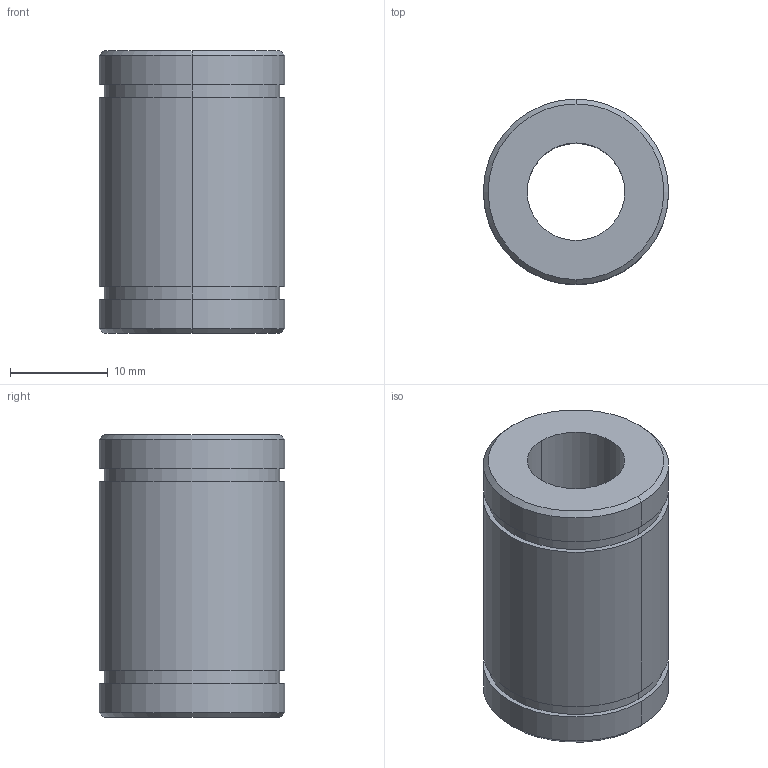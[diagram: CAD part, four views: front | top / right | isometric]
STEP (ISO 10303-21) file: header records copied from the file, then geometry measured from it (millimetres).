
FILE_DESCRIPTION (( 'STEP AP214' ), '1' );
FILE_NAME ('2.7006 Lineaarilaakeri LM10UU.STEP', '2024-06-17T07:30:20', ( '' ), ( '' ), 'SwSTEP 2.0', 'SolidWorks 2024', '' );
FILE_SCHEMA (( 'AUTOMOTIVE_DESIGN' ));
Length unit declared in the file: millimetre
Products named in the file (1): 2.7006 Lineaarilaakeri LM10UU
Bounding box: 19 x 19 x 29 mm (x, y, z)
Volume: 5854.5 mm3; surface area: 3124.5 mm2
Topology: 1 solids, 1 shells, 22 faces, 44 edges, 28 vertices
Faces by surface type: cylinder 12, plane 6, cone 4
Entity records: 611 total; most frequent: DIRECTION 118, CARTESIAN_POINT 95, ORIENTED_EDGE 88, AXIS2_PLACEMENT_3D 51, EDGE_CURVE 44, VERTEX_POINT 28, EDGE_LOOP 28, CIRCLE 28
